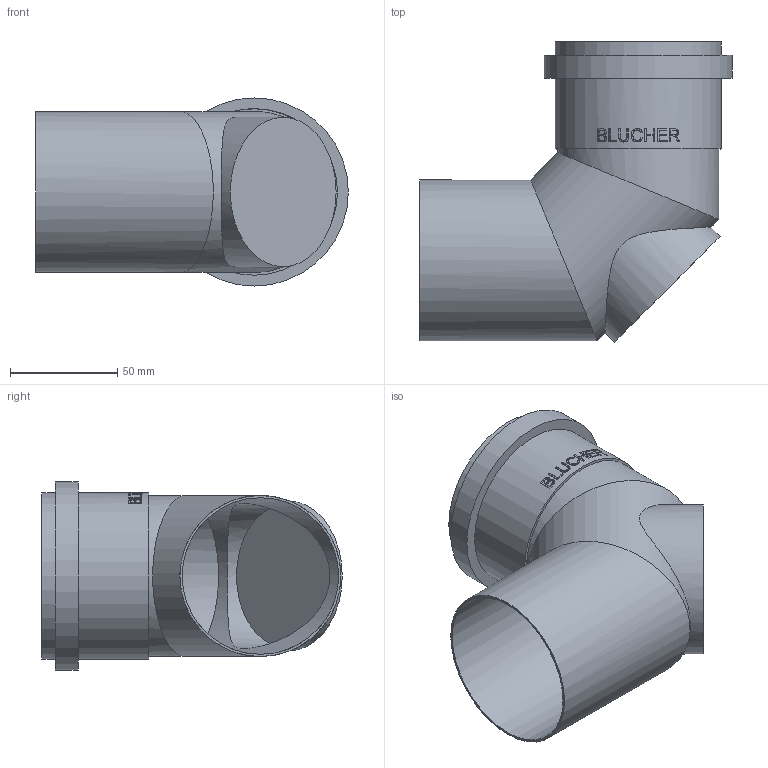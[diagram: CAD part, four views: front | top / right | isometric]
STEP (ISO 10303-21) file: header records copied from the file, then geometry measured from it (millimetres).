
FILE_DESCRIPTION((''),'2;1');
FILE_NAME('I:\WATTS\3D_CAD\3D_CAD_Models\Blucher_Drains\Fittings\Access Fittings\WebsiteFiles\3D\STEP\AB-3-316.stp','2009-12-18T15:24:01',('menesek'),(''),'Autodesk Inventor 2010','Autodesk Inventor 2010','');
FILE_SCHEMA(('AUTOMOTIVE_DESIGN { 1 0 10303 214 1 1 1 1 }'));
Length unit declared in the file: inch
Products named in the file (1): AB-3-316
Bounding box: 146.05 x 140.32 x 87.88 mm (x, y, z)
Volume: 49987.2 mm3; surface area: 99166.4 mm2
Topology: 1 solids, 1 shells, 122 faces, 312 edges, 210 vertices
Faces by surface type: plane 64, bspline 34, cylinder 24
Full cylindrical faces by diameter (mm): 67.818 x1, 69.85 x1, 73.152 x3, 75.184 x3, 75.692 x2, 77.724 x2, 85.852 x1, 87.884 x1
Entity records: 14318 total; most frequent: CARTESIAN_POINT 11676, ORIENTED_EDGE 584, DIRECTION 416, EDGE_CURVE 292, VERTEX_POINT 204, EDGE_LOOP 156, AXIS2_PLACEMENT_3D 150, FACE_OUTER_BOUND 122
